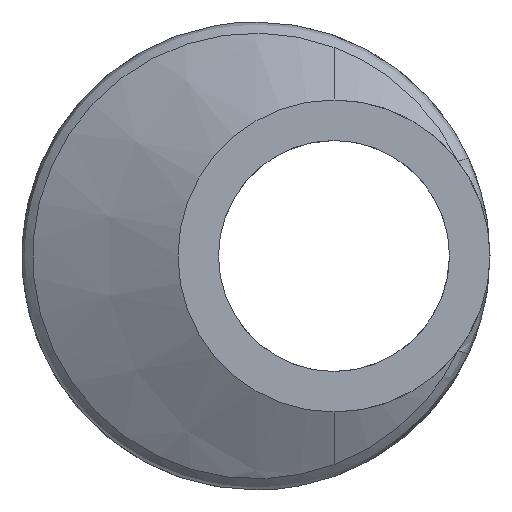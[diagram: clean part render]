
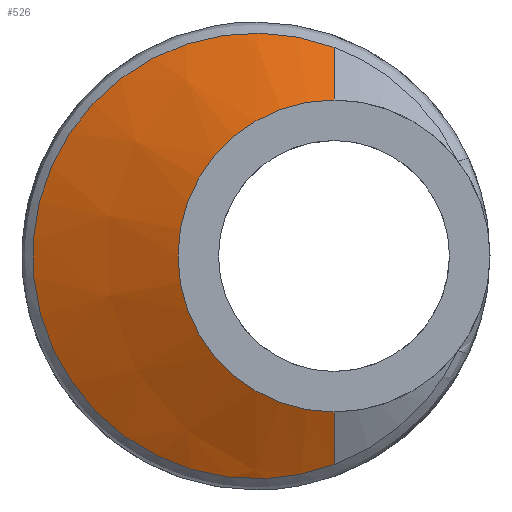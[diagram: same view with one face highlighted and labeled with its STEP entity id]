
A CAD part, left-side view. The second image highlights one B-rep face of the part: STEP entity #526.
In plain terms, the highlighted conical face has half-angle 63.399 degrees and reference radius 6.35 mm.
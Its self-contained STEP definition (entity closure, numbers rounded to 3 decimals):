
#4 = CARTESIAN_POINT ( 'NONE',  ( -25.805, 7.68, 4.87 ) ) ;
#13 = CARTESIAN_POINT ( 'NONE',  ( -26.07, 5.751, -7.067 ) ) ;
#32 = CARTESIAN_POINT ( 'NONE',  ( -26.491, 2.872, -8.616 ) ) ;
#34 = VERTEX_POINT ( 'NONE', #264 ) ;
#54 = DIRECTION ( 'NONE',  ( 0.448, 0., -0.894 ) ) ;
#68 = CARTESIAN_POINT ( 'NONE',  ( -26.826, 0.737, 9.048 ) ) ;
#77 = VERTEX_POINT ( 'NONE', #101 ) ;
#101 = CARTESIAN_POINT ( 'NONE',  ( -27.507, -3.175, -8.493 ) ) ;
#108 = CARTESIAN_POINT ( 'NONE',  ( -27.38, -2.497, 8.746 ) ) ;
#123 = CARTESIAN_POINT ( 'NONE',  ( -26.884, 0.376, -9.091 ) ) ;
#162 = EDGE_CURVE ( 'NONE', #629, #34, #891, .T. ) ;
#166 = CARTESIAN_POINT ( 'NONE',  ( -26.34, 3.884, 8.212 ) ) ;
#182 = CARTESIAN_POINT ( 'NONE',  ( -26.07, 5.753, 7.065 ) ) ;
#189 = CARTESIAN_POINT ( 'NONE',  ( -27.507, -3.175, -8.493 ) ) ;
#196 = CARTESIAN_POINT ( 'NONE',  ( -26.544, 2.525, -8.723 ) ) ;
#224 = CARTESIAN_POINT ( 'NONE',  ( -25.629, 9.001, 1.467 ) ) ;
#230 = VECTOR ( 'NONE', #54, 1000. ) ;
#246 = CARTESIAN_POINT ( 'NONE',  ( -25.861, 7.261, 5.473 ) ) ;
#258 = CARTESIAN_POINT ( 'NONE',  ( -25.893, 7.031, 5.765 ) ) ;
#264 = CARTESIAN_POINT ( 'NONE',  ( -27.507, -3.175, 8.493 ) ) ;
#282 = CARTESIAN_POINT ( 'NONE',  ( -25.664, 8.735, -2.539 ) ) ;
#284 = DIRECTION ( 'NONE',  ( 0.448, 0., 0.894 ) ) ;
#290 = CARTESIAN_POINT ( 'NONE',  ( -25.618, 9.09, -0.743 ) ) ;
#301 = CARTESIAN_POINT ( 'NONE',  ( -25.714, 8.361, -3.582 ) ) ;
#304 = EDGE_LOOP ( 'NONE', ( #512, #328, #360, #1010 ) ) ;
#307 = CIRCLE ( 'NONE', #320, 6.35 ) ;
#320 = AXIS2_PLACEMENT_3D ( 'NONE', #827, #819, #769 ) ;
#328 = ORIENTED_EDGE ( 'NONE', *, *, #162, .T. ) ;
#333 = CARTESIAN_POINT ( 'NONE',  ( -25.993, 6.299, 6.584 ) ) ;
#335 = CARTESIAN_POINT ( 'NONE',  ( -27.005, -0.347, 9.07 ) ) ;
#337 = CARTESIAN_POINT ( 'NONE',  ( -25.862, 7.259, -5.475 ) ) ;
#344 = CARTESIAN_POINT ( 'NONE',  ( -26.2, 4.844, -7.688 ) ) ;
#360 = ORIENTED_EDGE ( 'NONE', *, *, #590, .T. ) ;
#377 = AXIS2_PLACEMENT_3D ( 'NONE', #1060, #421, #426 ) ;
#421 = DIRECTION ( 'NONE',  ( 1., 0., 0. ) ) ;
#426 = DIRECTION ( 'NONE',  ( 0., 0., -1. ) ) ;
#432 = EDGE_CURVE ( 'NONE', #928, #629, #307, .T. ) ;
#433 = CARTESIAN_POINT ( 'NONE',  ( -26.491, 2.873, 8.616 ) ) ;
#434 = LINE ( 'NONE', #463, #230 ) ;
#439 = CONICAL_SURFACE ( 'NONE', #377, 6.35, 1.107 ) ;
#463 = CARTESIAN_POINT ( 'NONE',  ( -28.58, -3.175, -6.35 ) ) ;
#493 = CARTESIAN_POINT ( 'NONE',  ( -26.544, 2.525, 8.723 ) ) ;
#505 = CARTESIAN_POINT ( 'NONE',  ( -25.734, 8.209, -3.916 ) ) ;
#510 = CARTESIAN_POINT ( 'NONE',  ( -25.629, 9., -1.471 ) ) ;
#512 = ORIENTED_EDGE ( 'NONE', *, *, #432, .T. ) ;
#526 = ADVANCED_FACE ( 'NONE', ( #900 ), #439, .T. ) ;
#590 = EDGE_CURVE ( 'NONE', #34, #77, #1050, .T. ) ;
#600 = CARTESIAN_POINT ( 'NONE',  ( -25.779, 7.87, 4.558 ) ) ;
#610 = CARTESIAN_POINT ( 'NONE',  ( -25.734, 8.211, 3.912 ) ) ;
#612 = CARTESIAN_POINT ( 'NONE',  ( -25.664, 8.736, 2.535 ) ) ;
#617 = CARTESIAN_POINT ( 'NONE',  ( -26.245, 4.527, -7.878 ) ) ;
#629 = VERTEX_POINT ( 'NONE', #775 ) ;
#656 = CARTESIAN_POINT ( 'NONE',  ( -27.507, -3.175, 8.493 ) ) ;
#678 = VECTOR ( 'NONE', #284, 1000. ) ;
#694 = CARTESIAN_POINT ( 'NONE',  ( -25.679, 8.624, -2.893 ) ) ;
#738 = CARTESIAN_POINT ( 'NONE',  ( -26.2, 4.845, 7.687 ) ) ;
#769 = DIRECTION ( 'NONE',  ( 0., 0., -1. ) ) ;
#771 = CARTESIAN_POINT ( 'NONE',  ( -28.58, -3.175, -6.35 ) ) ;
#775 = CARTESIAN_POINT ( 'NONE',  ( -28.58, -3.175, 6.35 ) ) ;
#780 = CARTESIAN_POINT ( 'NONE',  ( -26.34, 3.881, -8.213 ) ) ;
#819 = DIRECTION ( 'NONE',  ( 1., 0., 0. ) ) ;
#823 = CARTESIAN_POINT ( 'NONE',  ( -26.389, 3.552, 8.36 ) ) ;
#827 = CARTESIAN_POINT ( 'NONE',  ( -28.58, -3.175, 0. ) ) ;
#842 = CARTESIAN_POINT ( 'NONE',  ( -26.711, 1.455, 8.962 ) ) ;
#854 = CARTESIAN_POINT ( 'NONE',  ( -26.389, 3.55, -8.361 ) ) ;
#867 = EDGE_CURVE ( 'NONE', #928, #77, #434, .T. ) ;
#870 = CARTESIAN_POINT ( 'NONE',  ( -27.004, -0.346, -9.092 ) ) ;
#874 = CARTESIAN_POINT ( 'NONE',  ( -25.618, 9.09, 0.74 ) ) ;
#891 = LINE ( 'NONE', #1020, #678 ) ;
#900 = FACE_OUTER_BOUND ( 'NONE', #304, .T. ) ;
#915 = CARTESIAN_POINT ( 'NONE',  ( -25.805, 7.678, -4.873 ) ) ;
#918 = CARTESIAN_POINT ( 'NONE',  ( -26.711, 1.454, -8.962 ) ) ;
#923 = CARTESIAN_POINT ( 'NONE',  ( -25.714, 8.362, 3.578 ) ) ;
#928 = VERTEX_POINT ( 'NONE', #771 ) ;
#932 = CARTESIAN_POINT ( 'NONE',  ( -25.78, 7.868, -4.561 ) ) ;
#936 = CARTESIAN_POINT ( 'NONE',  ( -25.679, 8.625, 2.889 ) ) ;
#938 = CARTESIAN_POINT ( 'NONE',  ( -26.885, 0.377, 9.07 ) ) ;
#979 = CARTESIAN_POINT ( 'NONE',  ( -26.655, 1.813, 8.897 ) ) ;
#1004 = CARTESIAN_POINT ( 'NONE',  ( -25.893, 7.029, -5.767 ) ) ;
#1007 = CARTESIAN_POINT ( 'NONE',  ( -27.38, -2.499, -8.746 ) ) ;
#1010 = ORIENTED_EDGE ( 'NONE', *, *, #867, .F. ) ;
#1013 = CARTESIAN_POINT ( 'NONE',  ( -25.994, 6.297, -6.587 ) ) ;
#1020 = CARTESIAN_POINT ( 'NONE',  ( -28.58, -3.175, 6.35 ) ) ;
#1021 = CARTESIAN_POINT ( 'NONE',  ( -27.254, -1.798, -8.917 ) ) ;
#1023 = CARTESIAN_POINT ( 'NONE',  ( -27.067, -0.713, 9.048 ) ) ;
#1044 = CARTESIAN_POINT ( 'NONE',  ( -26.655, 1.814, -8.897 ) ) ;
#1050 = B_SPLINE_CURVE_WITH_KNOTS ( 'NONE', 3,
 ( #656, #108, #1077, #1023, #335, #938, #68, #842, #979, #493, #433, #823, #166, #1069, #738, #182, #333, #258, #246, #4, #600, #610, #923, #936, #612, #224, #874, #290, #510, #282, #694, #301, #505, #932, #915, #337, #1004, #1013, #13, #344, #617, #780, #854, #32, #196, #1044, #918, #123, #870, #1021, #1007, #189 ),
 .UNSPECIFIED., .F., .F.,
 ( 4, 2, 2, 2, 2, 2, 2, 2, 2, 2, 2, 2, 2, 2, 2, 2, 2, 2, 2, 2, 2, 2, 2, 2, 2, 4 ),
 ( 0.007, 0.009, 0.01, 0.011, 0.013, 0.014, 0.015, 0.016, 0.018, 0.019, 0.02, 0.021, 0.022, 0.025, 0.027, 0.028, 0.029, 0.03, 0.031, 0.033, 0.034, 0.036, 0.037, 0.038, 0.04, 0.042 ),
 .UNSPECIFIED. ) ;
#1060 = CARTESIAN_POINT ( 'NONE',  ( -28.58, -3.175, 0. ) ) ;
#1069 = CARTESIAN_POINT ( 'NONE',  ( -26.245, 4.529, 7.877 ) ) ;
#1077 = CARTESIAN_POINT ( 'NONE',  ( -27.254, -1.797, 8.917 ) ) ;
